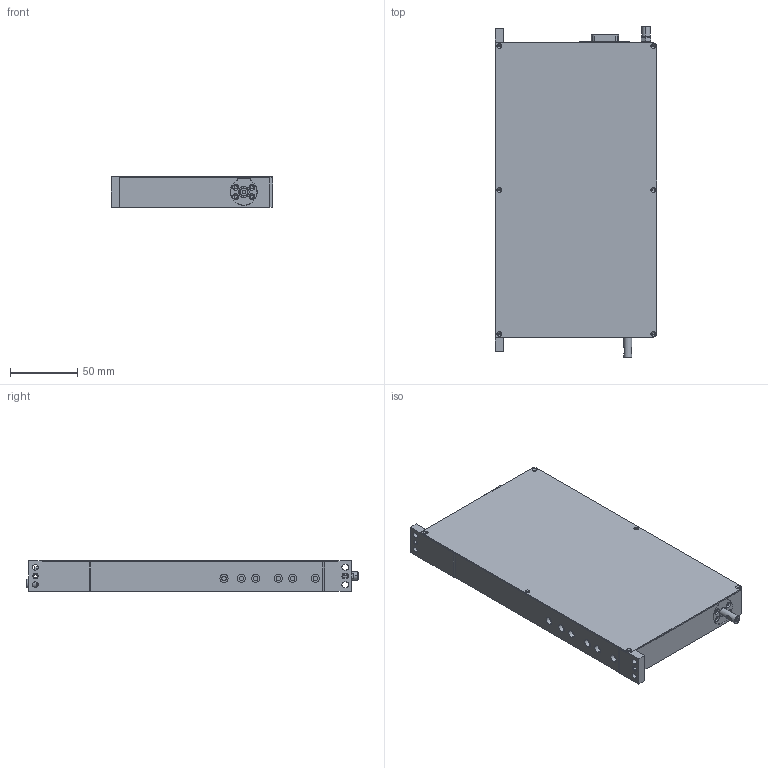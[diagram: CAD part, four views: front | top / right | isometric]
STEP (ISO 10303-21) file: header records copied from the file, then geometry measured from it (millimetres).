
FILE_DESCRIPTION (( 'STEP AP214' ), '1' );
FILE_NAME ('LRA40-23-00-048-P40-A00.STEP', '2023-08-14T09:54:51', ( '' ), ( '' ), 'SwSTEP 2.0', 'SolidWorks 2020', '' );
FILE_SCHEMA (( 'AUTOMOTIVE_DESIGN' ));
Length unit declared in the file: millimetre
Products named in the file (7): LRA_A V0.3; LRA40-23-00-048-P40-A00; LRA01010002裔啣; LRA01010011傷裔 ; M-5H-4; LRA01010001褲极; LRA01020002翋粣
Assembly tree (6 placements, depth 2):
  LRA40-23-00-048-P40-A00
    LRA01010001褲极
    LRA01010002裔啣
    LRA01010011傷裔 
    M-5H-4
    LRA_A V0.3
    LRA01020002翋粣
Bounding box: 120 x 246.9 x 23 mm (x, y, z)
Volume: 612739.6 mm3; surface area: 133755.7 mm2
Topology: 28 solids, 28 shells, 3607 faces, 10077 edges, 6577 vertices
Faces by surface type: plane 2700, cylinder 543, bspline 286, cone 68, sphere 10
Entity records: 161565 total; most frequent: CARTESIAN_POINT 32649, ORIENTED_EDGE 20114, DIRECTION 17163, EDGE_CURVE 10057, LINE 8261, VECTOR 8261, VERTEX_POINT 6577, AXIS2_PLACEMENT_3D 4451
